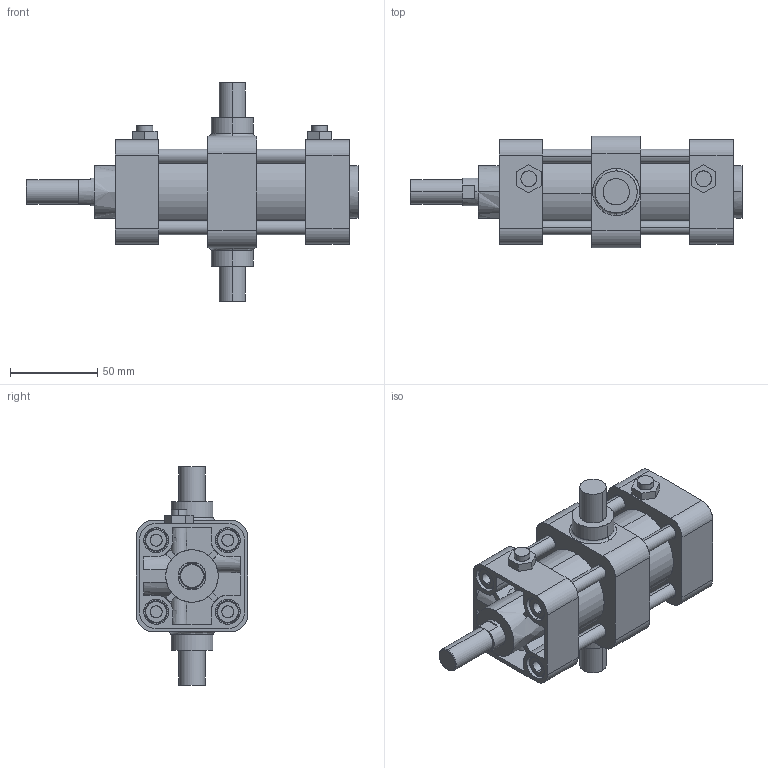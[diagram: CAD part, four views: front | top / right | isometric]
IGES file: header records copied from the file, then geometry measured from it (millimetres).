
Start section: SolidWorks IGES file using analytic representation for surfaces
Global section: file name: C:\Users\Toshiba\Desktop\KG2-40-50-T.IGS; native system: SolidWorks 2014; preprocessor: SolidWorks 2014; author: Toshiba; date: 160401.161012; units: millimetre
Bounding box: 190 x 64 x 125 mm (x, y, z)
Surface area: 105438.5 mm2 (no closed solid volume)
Topology: 0 solids, 0 shells, 395 faces, 6005 edges, 5971 vertices
Faces by surface type: revolution 208, bspline 187
